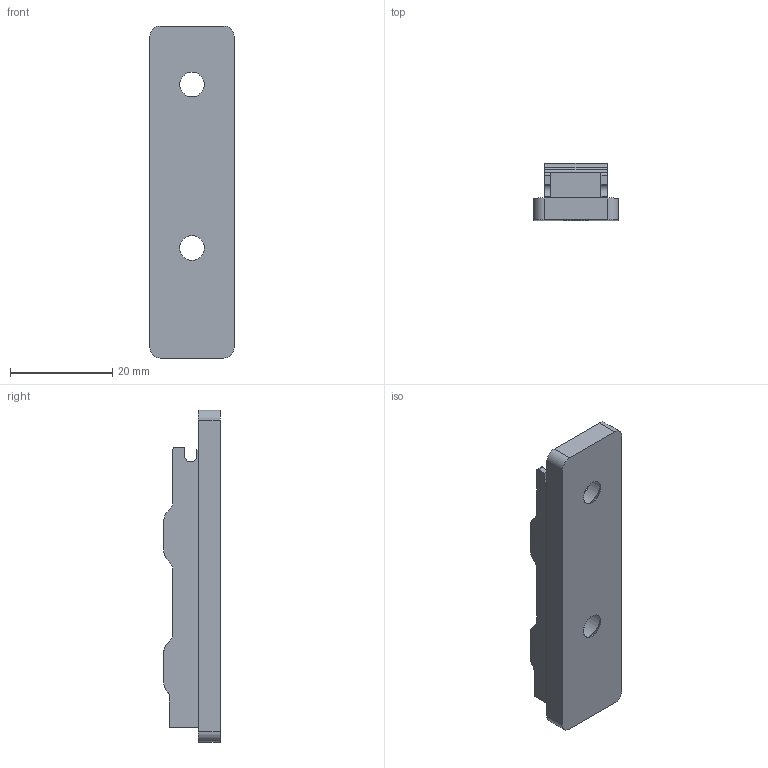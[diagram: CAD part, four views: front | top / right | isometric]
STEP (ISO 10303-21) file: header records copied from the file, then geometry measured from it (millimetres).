
FILE_DESCRIPTION (( 'STEP AP203' ), '1' );
FILE_NAME ('SQ00YQ.STEP', '2020-08-25T01:55:27', ( 'Windows 蚚誧' ), ( '' ), 'SwSTEP 2.0', 'SolidWorks 2018', '' );
FILE_SCHEMA (( 'CONFIG_CONTROL_DESIGN' ));
Length unit declared in the file: millimetre
Products named in the file (1): SQ00YQ
Bounding box: 16.5 x 11.1 x 65 mm (x, y, z)
Volume: 7333.8 mm3; surface area: 3915.4 mm2
Topology: 1 solids, 1 shells, 60 faces, 164 edges, 108 vertices
Faces by surface type: plane 31, cylinder 25, cone 4
Entity records: 2031 total; most frequent: CARTESIAN_POINT 385, DIRECTION 332, ORIENTED_EDGE 328, EDGE_CURVE 164, AXIS2_PLACEMENT_3D 113, VERTEX_POINT 108, LINE 106, VECTOR 106
